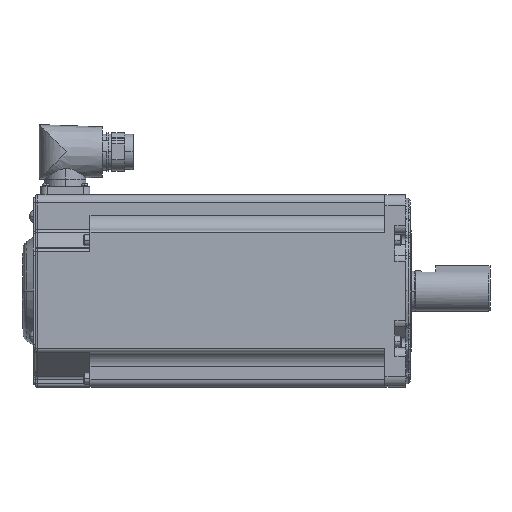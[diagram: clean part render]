
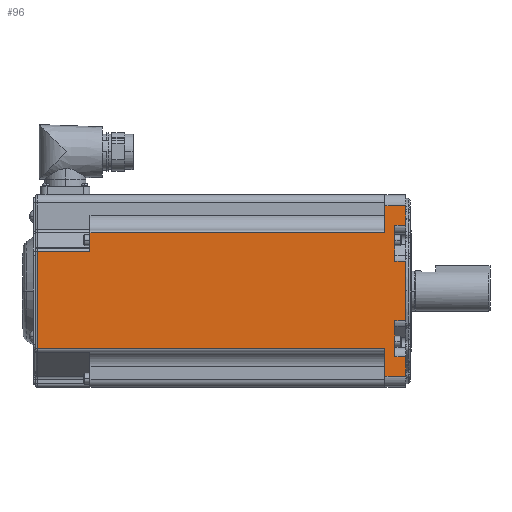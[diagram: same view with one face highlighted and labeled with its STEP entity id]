
A CAD part, top view. The second image highlights one B-rep face of the part: STEP entity #96.
In plain terms, the highlighted planar face has unit normal (0, 0, 1) as drawn and (0, 0, -1) by its records, which use the part's own axes.
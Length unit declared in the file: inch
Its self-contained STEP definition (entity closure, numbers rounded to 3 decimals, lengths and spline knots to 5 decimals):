
#96 = ADVANCED_FACE ( 'NONE', ( #195 ), #11727, .F. ) ;
#187 = AXIS2_PLACEMENT_3D ( 'NONE', #11728, #11729, #11730 ) ;
#195 = FACE_OUTER_BOUND ( 'NONE', #1135, .T. ) ;
#910 = VERTEX_POINT ( 'NONE', #12151 ) ;
#911 = VERTEX_POINT ( 'NONE', #12152 ) ;
#947 = VERTEX_POINT ( 'NONE', #12188 ) ;
#948 = VERTEX_POINT ( 'NONE', #12189 ) ;
#960 = VERTEX_POINT ( 'NONE', #12428 ) ;
#961 = VERTEX_POINT ( 'NONE', #12429 ) ;
#1040 = VERTEX_POINT ( 'NONE', #12508 ) ;
#1041 = VERTEX_POINT ( 'NONE', #12509 ) ;
#1042 = VERTEX_POINT ( 'NONE', #12510 ) ;
#1043 = VERTEX_POINT ( 'NONE', #12511 ) ;
#1044 = VERTEX_POINT ( 'NONE', #12512 ) ;
#1045 = VERTEX_POINT ( 'NONE', #12513 ) ;
#1046 = VERTEX_POINT ( 'NONE', #12514 ) ;
#1047 = VERTEX_POINT ( 'NONE', #12515 ) ;
#1048 = VERTEX_POINT ( 'NONE', #12516 ) ;
#1049 = VERTEX_POINT ( 'NONE', #12517 ) ;
#1050 = VERTEX_POINT ( 'NONE', #12518 ) ;
#1051 = VERTEX_POINT ( 'NONE', #12519 ) ;
#1135 = EDGE_LOOP ( 'NONE', ( #5350, #5353, #5352, #5354, #5355, #5356, #5358, #5357, #5359, #5360, #5361, #5362, #5363, #5364, #5366, #5365, #5367, #5368 ) ) ;
#4986 = EDGE_CURVE ( 'NONE', #910, #911, #19660, .T. ) ;
#5029 = EDGE_CURVE ( 'NONE', #947, #948, #19789, .T. ) ;
#5050 = EDGE_CURVE ( 'NONE', #960, #961, #24680, .T. ) ;
#5133 = EDGE_CURVE ( 'NONE', #1040, #1042, #24929, .T. ) ;
#5134 = EDGE_CURVE ( 'NONE', #1040, #1041, #24932, .T. ) ;
#5135 = EDGE_CURVE ( 'NONE', #1042, #1043, #24935, .T. ) ;
#5136 = EDGE_CURVE ( 'NONE', #1043, #911, #24938, .T. ) ;
#5137 = EDGE_CURVE ( 'NONE', #910, #1044, #24941, .T. ) ;
#5138 = EDGE_CURVE ( 'NONE', #1044, #1045, #24944, .T. ) ;
#5139 = EDGE_CURVE ( 'NONE', #1045, #1046, #24947, .T. ) ;
#5140 = EDGE_CURVE ( 'NONE', #1046, #1047, #24950, .T. ) ;
#5141 = EDGE_CURVE ( 'NONE', #1047, #1048, #24953, .T. ) ;
#5142 = EDGE_CURVE ( 'NONE', #1049, #1048, #24956, .T. ) ;
#5143 = EDGE_CURVE ( 'NONE', #1049, #961, #24959, .T. ) ;
#5144 = EDGE_CURVE ( 'NONE', #960, #1050, #24962, .T. ) ;
#5145 = EDGE_CURVE ( 'NONE', #1051, #1050, #24965, .T. ) ;
#5146 = EDGE_CURVE ( 'NONE', #1051, #948, #24968, .T. ) ;
#5147 = EDGE_CURVE ( 'NONE', #947, #1041, #24971, .T. ) ;
#5350 = ORIENTED_EDGE ( 'NONE', *, *, #5134, .F. ) ;
#5352 = ORIENTED_EDGE ( 'NONE', *, *, #5135, .T. ) ;
#5353 = ORIENTED_EDGE ( 'NONE', *, *, #5133, .T. ) ;
#5354 = ORIENTED_EDGE ( 'NONE', *, *, #5136, .T. ) ;
#5355 = ORIENTED_EDGE ( 'NONE', *, *, #4986, .F. ) ;
#5356 = ORIENTED_EDGE ( 'NONE', *, *, #5137, .T. ) ;
#5357 = ORIENTED_EDGE ( 'NONE', *, *, #5139, .T. ) ;
#5358 = ORIENTED_EDGE ( 'NONE', *, *, #5138, .T. ) ;
#5359 = ORIENTED_EDGE ( 'NONE', *, *, #5140, .T. ) ;
#5360 = ORIENTED_EDGE ( 'NONE', *, *, #5141, .T. ) ;
#5361 = ORIENTED_EDGE ( 'NONE', *, *, #5142, .F. ) ;
#5362 = ORIENTED_EDGE ( 'NONE', *, *, #5143, .T. ) ;
#5363 = ORIENTED_EDGE ( 'NONE', *, *, #5050, .F. ) ;
#5364 = ORIENTED_EDGE ( 'NONE', *, *, #5144, .T. ) ;
#5365 = ORIENTED_EDGE ( 'NONE', *, *, #5146, .T. ) ;
#5366 = ORIENTED_EDGE ( 'NONE', *, *, #5145, .F. ) ;
#5367 = ORIENTED_EDGE ( 'NONE', *, *, #5029, .F. ) ;
#5368 = ORIENTED_EDGE ( 'NONE', *, *, #5147, .T. ) ;
#11727 = PLANE ( 'NONE',  #187 ) ;
#11728 = CARTESIAN_POINT ( 'NONE',  ( -7.23, 1.415, -2.24 ) ) ;
#11729 = DIRECTION ( 'NONE',  ( 0., 0., 1. ) ) ;
#11730 = DIRECTION ( 'NONE',  ( 0., -1., 0. ) ) ;
#12151 = CARTESIAN_POINT ( 'NONE',  ( -7.355, -0.91, -2.24 ) ) ;
#12152 = CARTESIAN_POINT ( 'NONE',  ( -7.355, -1.3525, -2.24 ) ) ;
#12188 = CARTESIAN_POINT ( 'NONE',  ( -0.25, -1.52798, -2.24 ) ) ;
#12189 = CARTESIAN_POINT ( 'NONE',  ( -0.25, -0.69135, -2.24 ) ) ;
#12428 = CARTESIAN_POINT ( 'NONE',  ( -0.25, 0.69135, -2.24 ) ) ;
#12429 = CARTESIAN_POINT ( 'NONE',  ( -0.25, 1.52798, -2.24 ) ) ;
#12508 = CARTESIAN_POINT ( 'NONE',  ( 0., -1.99, -2.24 ) ) ;
#12509 = CARTESIAN_POINT ( 'NONE',  ( 0., -1.52798, -2.24 ) ) ;
#12510 = CARTESIAN_POINT ( 'NONE',  ( -0.48, -1.99, -2.24 ) ) ;
#12511 = CARTESIAN_POINT ( 'NONE',  ( -0.48, -1.3525, -2.24 ) ) ;
#12512 = CARTESIAN_POINT ( 'NONE',  ( -8.59, -0.91, -2.24 ) ) ;
#12513 = CARTESIAN_POINT ( 'NONE',  ( -8.59, 1.3525, -2.24 ) ) ;
#12514 = CARTESIAN_POINT ( 'NONE',  ( -0.48, 1.3525, -2.24 ) ) ;
#12515 = CARTESIAN_POINT ( 'NONE',  ( -0.48, 1.99, -2.24 ) ) ;
#12516 = CARTESIAN_POINT ( 'NONE',  ( 0., 1.99, -2.24 ) ) ;
#12517 = CARTESIAN_POINT ( 'NONE',  ( 0., 1.52798, -2.24 ) ) ;
#12518 = CARTESIAN_POINT ( 'NONE',  ( 0., 0.69135, -2.24 ) ) ;
#12519 = CARTESIAN_POINT ( 'NONE',  ( 0., -0.69135, -2.24 ) ) ;
#19488 = VECTOR ( 'NONE', #19662, 39.37008 ) ;
#19660 = LINE ( 'NONE', #19661, #19488 ) ;
#19661 = CARTESIAN_POINT ( 'NONE',  ( -7.355, -2.24, -2.24 ) ) ;
#19662 = DIRECTION ( 'NONE',  ( 0., -1., 0. ) ) ;
#19789 = LINE ( 'NONE', #19790, #19844 ) ;
#19790 = CARTESIAN_POINT ( 'NONE',  ( -0.25, -0.7742, -2.24 ) ) ;
#19791 = DIRECTION ( 'NONE',  ( 0., 1., 0. ) ) ;
#19844 = VECTOR ( 'NONE', #19791, 39.37008 ) ;
#19865 = VECTOR ( 'NONE', #24682, 39.37008 ) ;
#19945 = VECTOR ( 'NONE', #24931, 39.37008 ) ;
#19946 = VECTOR ( 'NONE', #24934, 39.37008 ) ;
#19947 = VECTOR ( 'NONE', #24937, 39.37008 ) ;
#19948 = VECTOR ( 'NONE', #24940, 39.37008 ) ;
#19949 = VECTOR ( 'NONE', #24943, 39.37008 ) ;
#19950 = VECTOR ( 'NONE', #24946, 39.37008 ) ;
#19951 = VECTOR ( 'NONE', #24949, 39.37008 ) ;
#19952 = VECTOR ( 'NONE', #24952, 39.37008 ) ;
#19953 = VECTOR ( 'NONE', #24955, 39.37008 ) ;
#19954 = VECTOR ( 'NONE', #24958, 39.37008 ) ;
#19955 = VECTOR ( 'NONE', #24961, 39.37008 ) ;
#19956 = VECTOR ( 'NONE', #24964, 39.37008 ) ;
#19957 = VECTOR ( 'NONE', #24967, 39.37008 ) ;
#19958 = VECTOR ( 'NONE', #24970, 39.37008 ) ;
#19959 = VECTOR ( 'NONE', #24973, 39.37008 ) ;
#24680 = LINE ( 'NONE', #24681, #19865 ) ;
#24681 = CARTESIAN_POINT ( 'NONE',  ( -0.25, 0.7742, -2.24 ) ) ;
#24682 = DIRECTION ( 'NONE',  ( 0., 1., 0. ) ) ;
#24929 = LINE ( 'NONE', #24930, #19945 ) ;
#24930 = CARTESIAN_POINT ( 'NONE',  ( -7.23, -1.99, -2.24 ) ) ;
#24931 = DIRECTION ( 'NONE',  ( -1., 0., 0. ) ) ;
#24932 = LINE ( 'NONE', #24933, #19946 ) ;
#24933 = CARTESIAN_POINT ( 'NONE',  ( 0., -2.24, -2.24 ) ) ;
#24934 = DIRECTION ( 'NONE',  ( 0., 1., 0. ) ) ;
#24935 = LINE ( 'NONE', #24936, #19947 ) ;
#24936 = CARTESIAN_POINT ( 'NONE',  ( -0.48, -2.24, -2.24 ) ) ;
#24937 = DIRECTION ( 'NONE',  ( 0., 1., 0. ) ) ;
#24938 = LINE ( 'NONE', #24939, #19948 ) ;
#24939 = CARTESIAN_POINT ( 'NONE',  ( -7.23, -1.3525, -2.24 ) ) ;
#24940 = DIRECTION ( 'NONE',  ( -1., 0., 0. ) ) ;
#24941 = LINE ( 'NONE', #24942, #19949 ) ;
#24942 = CARTESIAN_POINT ( 'NONE',  ( -7.23, -0.91, -2.24 ) ) ;
#24943 = DIRECTION ( 'NONE',  ( -1., 0., 0. ) ) ;
#24944 = LINE ( 'NONE', #24945, #19950 ) ;
#24945 = CARTESIAN_POINT ( 'NONE',  ( -8.59, 1.3525, -2.24 ) ) ;
#24946 = DIRECTION ( 'NONE',  ( 0., 1., 0. ) ) ;
#24947 = LINE ( 'NONE', #24948, #19951 ) ;
#24948 = CARTESIAN_POINT ( 'NONE',  ( -7.23, 1.3525, -2.24 ) ) ;
#24949 = DIRECTION ( 'NONE',  ( 1., 0., 0. ) ) ;
#24950 = LINE ( 'NONE', #24951, #19952 ) ;
#24951 = CARTESIAN_POINT ( 'NONE',  ( -0.48, -2.24, -2.24 ) ) ;
#24952 = DIRECTION ( 'NONE',  ( 0., 1., 0. ) ) ;
#24953 = LINE ( 'NONE', #24954, #19953 ) ;
#24954 = CARTESIAN_POINT ( 'NONE',  ( -7.23, 1.99, -2.24 ) ) ;
#24955 = DIRECTION ( 'NONE',  ( 1., 0., 0. ) ) ;
#24956 = LINE ( 'NONE', #24957, #19954 ) ;
#24957 = CARTESIAN_POINT ( 'NONE',  ( 0., -2.24, -2.24 ) ) ;
#24958 = DIRECTION ( 'NONE',  ( 0., 1., 0. ) ) ;
#24959 = LINE ( 'NONE', #24960, #19955 ) ;
#24960 = CARTESIAN_POINT ( 'NONE',  ( -7.23, 1.52798, -2.24 ) ) ;
#24961 = DIRECTION ( 'NONE',  ( -1., 0., 0. ) ) ;
#24962 = LINE ( 'NONE', #24963, #19956 ) ;
#24963 = CARTESIAN_POINT ( 'NONE',  ( -7.23, 0.69135, -2.24 ) ) ;
#24964 = DIRECTION ( 'NONE',  ( 1., 0., 0. ) ) ;
#24965 = LINE ( 'NONE', #24966, #19957 ) ;
#24966 = CARTESIAN_POINT ( 'NONE',  ( 0., -2.24, -2.24 ) ) ;
#24967 = DIRECTION ( 'NONE',  ( 0., 1., 0. ) ) ;
#24968 = LINE ( 'NONE', #24969, #19958 ) ;
#24969 = CARTESIAN_POINT ( 'NONE',  ( -7.23, -0.69135, -2.24 ) ) ;
#24970 = DIRECTION ( 'NONE',  ( -1., 0., 0. ) ) ;
#24971 = LINE ( 'NONE', #24972, #19959 ) ;
#24972 = CARTESIAN_POINT ( 'NONE',  ( -7.23, -1.52798, -2.24 ) ) ;
#24973 = DIRECTION ( 'NONE',  ( 1., 0., 0. ) ) ;
